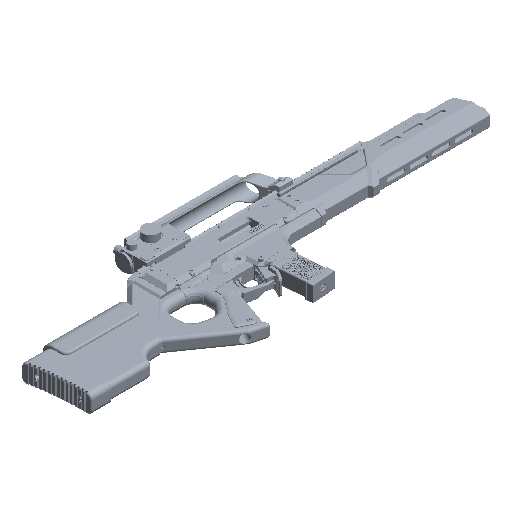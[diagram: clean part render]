
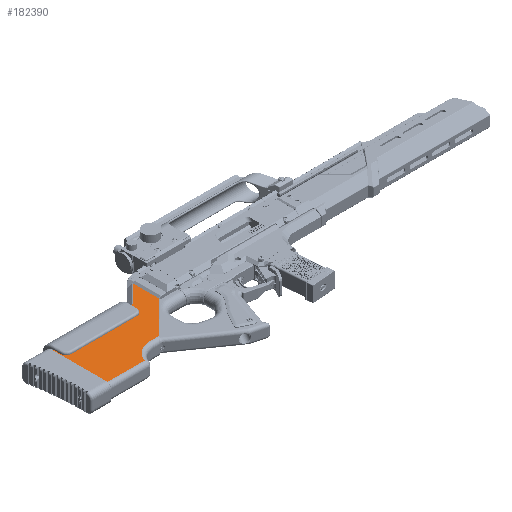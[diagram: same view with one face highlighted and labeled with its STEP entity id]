
A CAD part, isometric view. The second image highlights one B-rep face of the part: STEP entity #182390.
In plain terms, the highlighted planar face has unit normal (0, 0, 1) as drawn and (1, 0, 0) by its records, which use the part's own axes.
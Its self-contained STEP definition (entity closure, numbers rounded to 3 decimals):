
#6603=PLANE('',#195609);
#14525=FACE_OUTER_BOUND('',#25201,.T.);
#25201=EDGE_LOOP('',(#133816,#133817,#133818,#133819,#133820,#133821,#133822,
#133823,#133824));
#34519=ELLIPSE('',#195610,1.414,1.);
#38329=LINE('',#281895,#57111);
#38331=LINE('',#281901,#57113);
#38333=LINE('',#281907,#57115);
#38363=LINE('',#282026,#57145);
#38370=LINE('',#282053,#57152);
#38371=LINE('',#282058,#57153);
#38372=LINE('',#282059,#57154);
#57111=VECTOR('',#218646,10.);
#57113=VECTOR('',#218652,10.);
#57115=VECTOR('',#218658,10.);
#57145=VECTOR('',#218796,10.);
#57152=VECTOR('',#218829,10.);
#57153=VECTOR('',#218834,10.);
#57154=VECTOR('',#218835,10.);
#74507=CIRCLE('',#195536,36.314);
#80608=VERTEX_POINT('',#281716);
#80634=VERTEX_POINT('',#281890);
#80635=VERTEX_POINT('',#281894);
#80636=VERTEX_POINT('',#281898);
#80637=VERTEX_POINT('',#281900);
#80639=VERTEX_POINT('',#281906);
#80681=VERTEX_POINT('',#282051);
#80682=VERTEX_POINT('',#282055);
#80683=VERTEX_POINT('',#282056);
#100477=EDGE_CURVE('',#80634,#80608,#74507,.T.);
#100478=EDGE_CURVE('',#80608,#80635,#38329,.T.);
#100481=EDGE_CURVE('',#80636,#80637,#38331,.T.);
#100484=EDGE_CURVE('',#80637,#80639,#38333,.T.);
#100544=EDGE_CURVE('',#80636,#80635,#38363,.T.);
#100557=EDGE_CURVE('',#80681,#80634,#38370,.T.);
#100558=EDGE_CURVE('',#80682,#80683,#34519,.T.);
#100559=EDGE_CURVE('',#80639,#80683,#38371,.T.);
#100560=EDGE_CURVE('',#80682,#80681,#38372,.T.);
#133816=ORIENTED_EDGE('',*,*,#100558,.T.);
#133817=ORIENTED_EDGE('',*,*,#100559,.F.);
#133818=ORIENTED_EDGE('',*,*,#100484,.F.);
#133819=ORIENTED_EDGE('',*,*,#100481,.F.);
#133820=ORIENTED_EDGE('',*,*,#100544,.T.);
#133821=ORIENTED_EDGE('',*,*,#100478,.F.);
#133822=ORIENTED_EDGE('',*,*,#100477,.F.);
#133823=ORIENTED_EDGE('',*,*,#100557,.F.);
#133824=ORIENTED_EDGE('',*,*,#100560,.F.);
#182390=ADVANCED_FACE('',(#14525),#6603,.T.);
#195536=AXIS2_PLACEMENT_3D('',#281892,#218642,#218643);
#195609=AXIS2_PLACEMENT_3D('',#282054,#218830,#218831);
#195610=AXIS2_PLACEMENT_3D('',#282057,#218832,#218833);
#218642=DIRECTION('center_axis',(1.,0.,0.));
#218643=DIRECTION('ref_axis',(0.,-0.595,
0.804));
#218646=DIRECTION('',(0.,-1.,0.));
#218652=DIRECTION('',(0.,1.,0.));
#218658=DIRECTION('',(0.,0.707,0.707));
#218796=DIRECTION('',(0.,0.,-1.));
#218829=DIRECTION('',(0.,-1.,0.));
#218830=DIRECTION('center_axis',(1.,0.,0.));
#218831=DIRECTION('ref_axis',(0.,0.623,0.782));
#218832=DIRECTION('center_axis',(-1.,0.,0.));
#218833=DIRECTION('ref_axis',(0.,-1.,0.));
#218834=DIRECTION('',(0.,0.,-1.));
#218835=DIRECTION('',(0.,-0.707,-0.707));
#281716=CARTESIAN_POINT('',(13.511,-166.004,-75.068));
#281890=CARTESIAN_POINT('',(13.511,-131.497,-50.068));
#281892=CARTESIAN_POINT('Origin',(13.511,-131.497,-86.382));
#281894=CARTESIAN_POINT('',(13.511,-244.543,-75.068));
#281895=CARTESIAN_POINT('',(13.511,-167.706,-75.068));
#281898=CARTESIAN_POINT('',(13.511,-244.543,21.932));
#281900=CARTESIAN_POINT('',(13.511,-90.115,21.932));
#281901=CARTESIAN_POINT('',(13.511,-114.733,21.932));
#281906=CARTESIAN_POINT('',(13.511,-57.925,54.122));
#281907=CARTESIAN_POINT('',(13.511,-93.384,18.663));
#282026=CARTESIAN_POINT('',(13.511,-244.543,22.932));
#282051=CARTESIAN_POINT('',(13.511,-115.539,-50.068));
#282053=CARTESIAN_POINT('',(13.511,-111.854,-50.068));
#282054=CARTESIAN_POINT('Origin',(13.511,-92.21,-36.191));
#282055=CARTESIAN_POINT('',(13.511,-57.819,7.652));
#282056=CARTESIAN_POINT('',(13.511,-57.925,8.032));
#282057=CARTESIAN_POINT('Origin',(13.511,-56.511,8.032));
#282058=CARTESIAN_POINT('',(13.511,-57.925,-14.53));
#282059=CARTESIAN_POINT('',(13.511,-98.5,-33.029));
